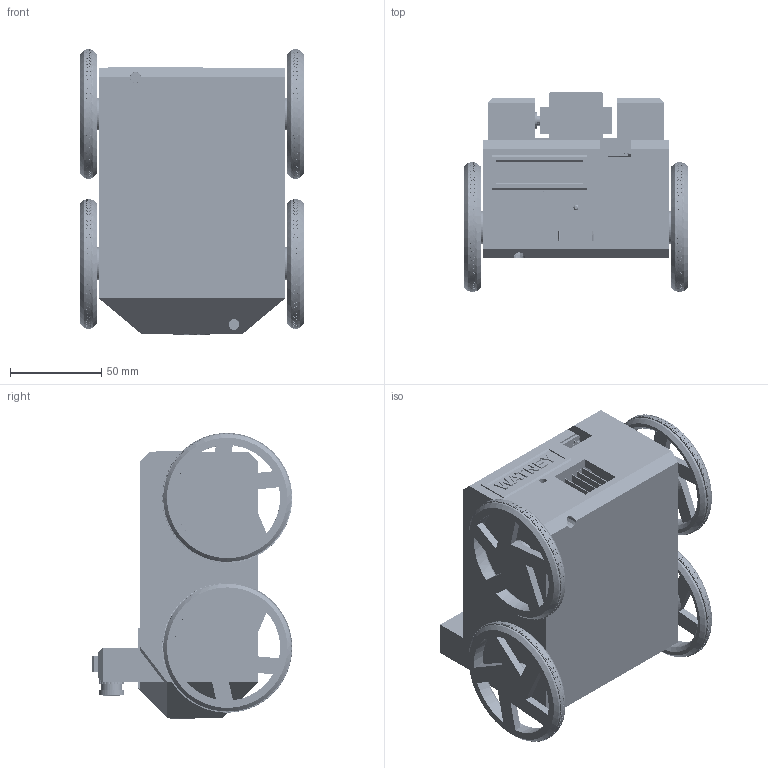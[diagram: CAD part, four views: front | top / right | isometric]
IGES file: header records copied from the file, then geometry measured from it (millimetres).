
Global section: file name: Watney-4; native system: unknown; preprocessor: unknown; author: 2centnik; organization: unknown; date: 20180712.121809; units: millimetre
Bounding box: 122.4 x 109.75 x 156.68 mm (x, y, z)
Volume: 423095.5 mm3; surface area: 254853 mm2
Topology: 48 solids, 50 shells, 7948 faces, 22487 edges, 15078 vertices
Faces by surface type: bspline 7948
